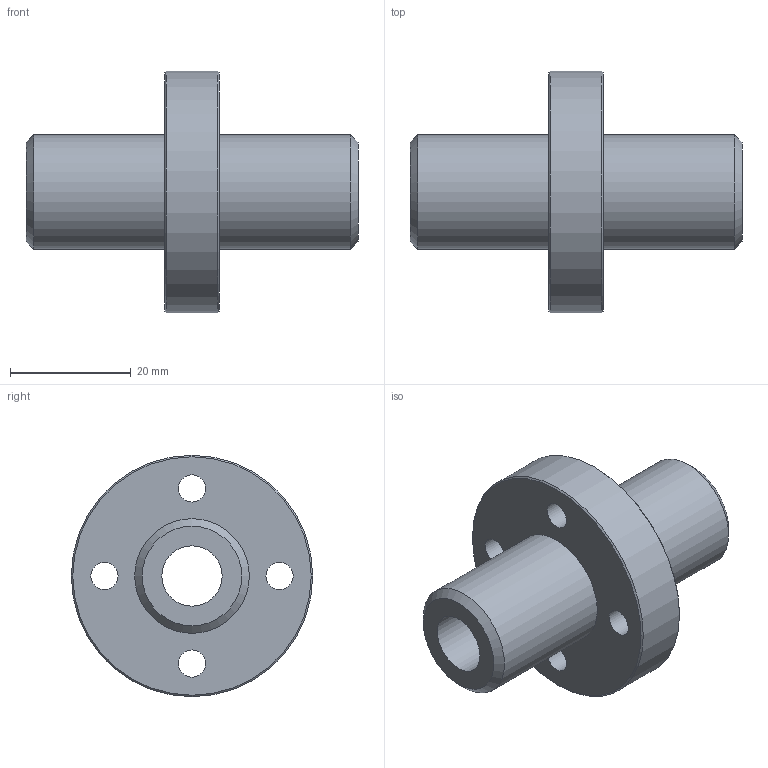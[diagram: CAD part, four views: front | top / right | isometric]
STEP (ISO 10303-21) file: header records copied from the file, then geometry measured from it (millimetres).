
FILE_DESCRIPTION(('STEP AP203'),'1');
FILE_NAME('//192.168.1.1/share/s-4 技術開発/s-4-4_CAD/s-4-4-3_見直し済み/PBC LINEAR修正済み/CFPJ/CFPJ_TOP/CFPJR/CFPJR10.step','2022-03-24T04:19:20',(' '),(' '),'Spatial InterOp 3D',' ',' ');
FILE_SCHEMA(('CONFIG_CONTROL_DESIGN'));
Length unit declared in the file: millimetre
Products named in the file (1): 1
Bounding box: 55 x 40 x 40 mm (x, y, z)
Volume: 18898.9 mm3; surface area: 8368 mm2
Topology: 1 solids, 1 shells, 24 faces, 51 edges, 35 vertices
Faces by surface type: cylinder 12, plane 8, cone 4
Full cylindrical faces by diameter (mm): 4.5 x4, 7.5 x4, 10 x1, 19 x2, 40 x1
Entity records: 588 total; most frequent: DIRECTION 106, CARTESIAN_POINT 81, EDGE_LOOP 56, ORIENTED_EDGE 56, AXIS2_PLACEMENT_3D 53, FACE_OUTER_BOUND 36, EDGE_CURVE 28, VERTEX_POINT 28
